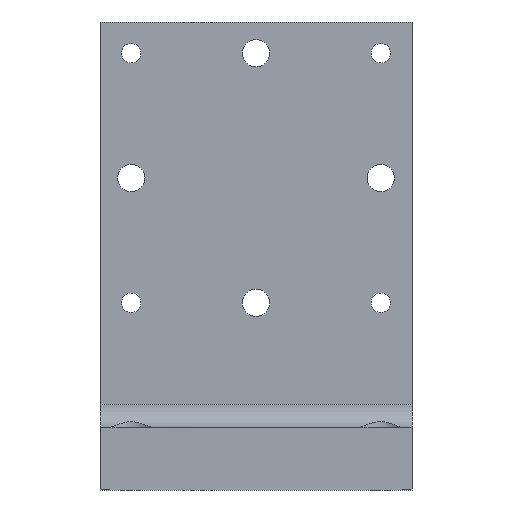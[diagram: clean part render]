
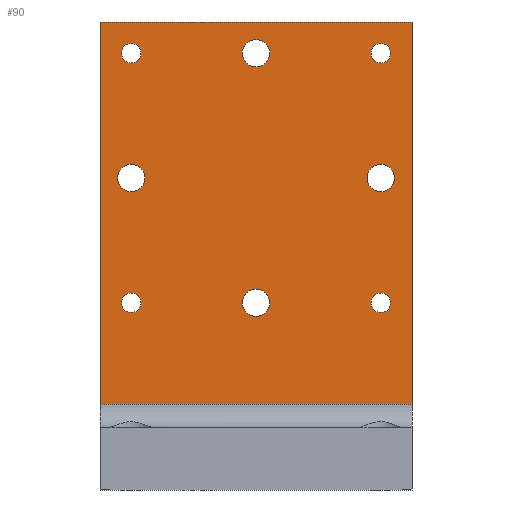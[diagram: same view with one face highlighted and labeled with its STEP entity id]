
A CAD part, left-side view. The second image highlights one B-rep face of the part: STEP entity #90.
In plain terms, the highlighted planar face has unit normal (-1, 0, 0).
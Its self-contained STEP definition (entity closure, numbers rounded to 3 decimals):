
#90 = ADVANCED_FACE( '', ( #156, #157, #158, #159, #160, #161, #162, #163, #164 ), #165, .T. );
#156 = FACE_BOUND( '', #279, .T. );
#157 = FACE_BOUND( '', #280, .T. );
#158 = FACE_BOUND( '', #281, .T. );
#159 = FACE_BOUND( '', #282, .T. );
#160 = FACE_BOUND( '', #283, .T. );
#161 = FACE_BOUND( '', #284, .T. );
#162 = FACE_BOUND( '', #285, .T. );
#163 = FACE_BOUND( '', #286, .T. );
#164 = FACE_OUTER_BOUND( '', #287, .T. );
#165 = PLANE( '', #288 );
#279 = EDGE_LOOP( '', ( #460 ) );
#280 = EDGE_LOOP( '', ( #461 ) );
#281 = EDGE_LOOP( '', ( #462 ) );
#282 = EDGE_LOOP( '', ( #463 ) );
#283 = EDGE_LOOP( '', ( #464 ) );
#284 = EDGE_LOOP( '', ( #465 ) );
#285 = EDGE_LOOP( '', ( #466 ) );
#286 = EDGE_LOOP( '', ( #467 ) );
#287 = EDGE_LOOP( '', ( #468, #469, #470, #471 ) );
#288 = AXIS2_PLACEMENT_3D( '', #472, #473, #474 );
#460 = ORIENTED_EDGE( '', *, *, #661, .T. );
#461 = ORIENTED_EDGE( '', *, *, #663, .T. );
#462 = ORIENTED_EDGE( '', *, *, #665, .T. );
#463 = ORIENTED_EDGE( '', *, *, #667, .T. );
#464 = ORIENTED_EDGE( '', *, *, #669, .T. );
#465 = ORIENTED_EDGE( '', *, *, #671, .T. );
#466 = ORIENTED_EDGE( '', *, *, #673, .T. );
#467 = ORIENTED_EDGE( '', *, *, #675, .T. );
#468 = ORIENTED_EDGE( '', *, *, #676, .F. );
#469 = ORIENTED_EDGE( '', *, *, #626, .T. );
#470 = ORIENTED_EDGE( '', *, *, #677, .F. );
#471 = ORIENTED_EDGE( '', *, *, #645, .F. );
#472 = CARTESIAN_POINT( '', ( 4., -212.814, -19. ) );
#473 = DIRECTION( '', ( -1., 0., 0. ) );
#474 = DIRECTION( '', ( 0., 0., 1. ) );
#626 = EDGE_CURVE( '', #706, #707, #708, .T. );
#645 = EDGE_CURVE( '', #740, #742, #743, .T. );
#661 = EDGE_CURVE( '', #772, #772, #773, .T. );
#663 = EDGE_CURVE( '', #776, #776, #777, .T. );
#665 = EDGE_CURVE( '', #780, #780, #781, .T. );
#667 = EDGE_CURVE( '', #784, #784, #785, .T. );
#669 = EDGE_CURVE( '', #788, #788, #789, .T. );
#671 = EDGE_CURVE( '', #792, #792, #793, .T. );
#673 = EDGE_CURVE( '', #796, #796, #797, .T. );
#675 = EDGE_CURVE( '', #800, #800, #801, .T. );
#676 = EDGE_CURVE( '', #706, #740, #802, .T. );
#677 = EDGE_CURVE( '', #742, #707, #803, .T. );
#706 = VERTEX_POINT( '', #851 );
#707 = VERTEX_POINT( '', #852 );
#708 = LINE( '', #853, #854 );
#740 = VERTEX_POINT( '', #951 );
#742 = VERTEX_POINT( '', #953 );
#743 = LINE( '', #954, #955 );
#772 = VERTEX_POINT( '', #1032 );
#773 = CIRCLE( '', #1033, 1.75 );
#776 = VERTEX_POINT( '', #1036 );
#777 = CIRCLE( '', #1037, 1.75 );
#780 = VERTEX_POINT( '', #1040 );
#781 = CIRCLE( '', #1041, 1.75 );
#784 = VERTEX_POINT( '', #1044 );
#785 = CIRCLE( '', #1045, 1.75 );
#788 = VERTEX_POINT( '', #1048 );
#789 = CIRCLE( '', #1049, 1.25 );
#792 = VERTEX_POINT( '', #1052 );
#793 = CIRCLE( '', #1053, 1.25 );
#796 = VERTEX_POINT( '', #1056 );
#797 = CIRCLE( '', #1057, 1.25 );
#800 = VERTEX_POINT( '', #1060 );
#801 = CIRCLE( '', #1061, 1.25 );
#802 = LINE( '', #1062, #1063 );
#803 = LINE( '', #1064, #1065 );
#851 = CARTESIAN_POINT( '', ( 4., -20., 30. ) );
#852 = CARTESIAN_POINT( '', ( 4., 20., 30. ) );
#853 = CARTESIAN_POINT( '', ( 4., -212.814, 30. ) );
#854 = VECTOR( '', #1126, 1000. );
#951 = CARTESIAN_POINT( '', ( 4., -20., -19. ) );
#953 = CARTESIAN_POINT( '', ( 4., 20., -19. ) );
#954 = CARTESIAN_POINT( '', ( 4., -212.814, -19. ) );
#955 = VECTOR( '', #1157, 1000. );
#1032 = CARTESIAN_POINT( '', ( 4., -16., 8.25 ) );
#1033 = AXIS2_PLACEMENT_3D( '', #1184, #1185, #1186 );
#1036 = CARTESIAN_POINT( '', ( 4., -1.75, 26. ) );
#1037 = AXIS2_PLACEMENT_3D( '', #1190, #1191, #1192 );
#1040 = CARTESIAN_POINT( '', ( 4., 16., 11.75 ) );
#1041 = AXIS2_PLACEMENT_3D( '', #1196, #1197, #1198 );
#1044 = CARTESIAN_POINT( '', ( 4., 1.75, -6. ) );
#1045 = AXIS2_PLACEMENT_3D( '', #1202, #1203, #1204 );
#1048 = CARTESIAN_POINT( '', ( 4., -14.75, 26. ) );
#1049 = AXIS2_PLACEMENT_3D( '', #1208, #1209, #1210 );
#1052 = CARTESIAN_POINT( '', ( 4., 17.25, 26. ) );
#1053 = AXIS2_PLACEMENT_3D( '', #1214, #1215, #1216 );
#1056 = CARTESIAN_POINT( '', ( 4., 17.25, -6. ) );
#1057 = AXIS2_PLACEMENT_3D( '', #1220, #1221, #1222 );
#1060 = CARTESIAN_POINT( '', ( 4., -14.75, -6. ) );
#1061 = AXIS2_PLACEMENT_3D( '', #1226, #1227, #1228 );
#1062 = CARTESIAN_POINT( '', ( 4., -20., -30. ) );
#1063 = VECTOR( '', #1229, 1000. );
#1064 = CARTESIAN_POINT( '', ( 4., 20., -30. ) );
#1065 = VECTOR( '', #1230, 1000. );
#1126 = DIRECTION( '', ( 0., 1., 0. ) );
#1157 = DIRECTION( '', ( 0., 1., 0. ) );
#1184 = CARTESIAN_POINT( '', ( 4., -16., 10. ) );
#1185 = DIRECTION( '', ( 1., 0., 0. ) );
#1186 = DIRECTION( '', ( 0., 0., -1. ) );
#1190 = CARTESIAN_POINT( '', ( 4., 0., 26. ) );
#1191 = DIRECTION( '', ( 1., 0., 0. ) );
#1192 = DIRECTION( '', ( 0., -1., 0. ) );
#1196 = CARTESIAN_POINT( '', ( 4., 16., 10. ) );
#1197 = DIRECTION( '', ( 1., 0., 0. ) );
#1198 = DIRECTION( '', ( 0., 0., 1. ) );
#1202 = CARTESIAN_POINT( '', ( 4., 0., -6. ) );
#1203 = DIRECTION( '', ( 1., 0., 0. ) );
#1204 = DIRECTION( '', ( 0., 1., 0. ) );
#1208 = CARTESIAN_POINT( '', ( 4., -16., 26. ) );
#1209 = DIRECTION( '', ( 1., 0., 0. ) );
#1210 = DIRECTION( '', ( 0., 1., 0. ) );
#1214 = CARTESIAN_POINT( '', ( 4., 16., 26. ) );
#1215 = DIRECTION( '', ( 1., 0., 0. ) );
#1216 = DIRECTION( '', ( 0., 1., 0. ) );
#1220 = CARTESIAN_POINT( '', ( 4., 16., -6. ) );
#1221 = DIRECTION( '', ( 1., 0., 0. ) );
#1222 = DIRECTION( '', ( 0., 1., 0. ) );
#1226 = CARTESIAN_POINT( '', ( 4., -16., -6. ) );
#1227 = DIRECTION( '', ( 1., 0., 0. ) );
#1228 = DIRECTION( '', ( 0., 1., 0. ) );
#1229 = DIRECTION( '', ( 0., 0., -1. ) );
#1230 = DIRECTION( '', ( 0., 0., 1. ) );
